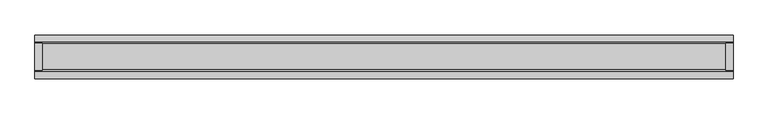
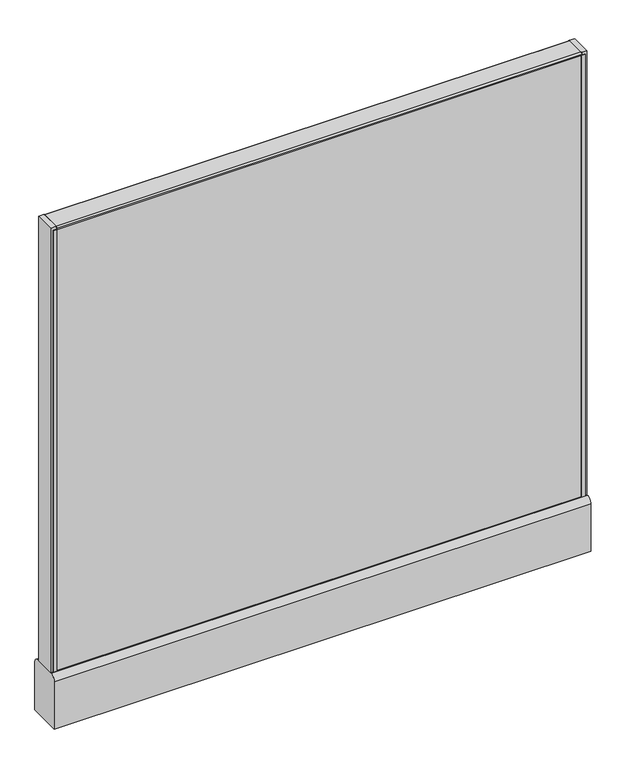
"""IFC4 building model written with IfcOpenShell, lengths in millimetres: furniture geometry."""

from ifc_helpers import new_model, si_unit, point, frame, frame_2d, origin, place, context, project, spatial, polyline, circle_curve, trimmed, segment, composite_curve, outline, extrude, source, transform, mapped, element, save
from ifc_brep_helpers import plane_surface, cylinder_surface, advanced_brep


def furniture_4f6b2c6c(model_context):
    return source(origin(), model_context, "Body", "SolidModel", [
        advanced_brep(
        [(552.45, 0.0, 0.0), (577.85, 0.0, 0.0), (565.15, 0.0, 0.0), (552.45, 0.0, 4.7625), (577.85, 0.0, 4.7625), (558.8, 0.0, 4.7625), (571.5, 0.0, 4.7625), (558.8, 0.0, 111.125), (571.5, 0.0, 111.125), (565.15, 0.0, 111.125)],
        [
            (0, 1, circle_curve(frame((565.15, 0.0, 0.0), z_axis=(0.0, 0.0, -1.0), x_axis=(1.0, 0.0, 0.0)), 12.7)),
            (1, 2),
            (2, 0),
            (1, 0, circle_curve(frame((565.15, 0.0, 0.0), z_axis=(0.0, 0.0, -1.0), x_axis=(1.0, 0.0, 0.0)), 12.7)),
            (3, 4, circle_curve(frame((565.15, 0.0, 4.7625), z_axis=(0.0, 0.0, -1.0), x_axis=(1.0, 0.0, 0.0)), 12.7)),
            (4, 1),
            (0, 3),
            (4, 3, circle_curve(frame((565.15, 0.0, 4.7625), z_axis=(0.0, 0.0, -1.0), x_axis=(1.0, 0.0, 0.0)), 12.7)),
            (5, 6, circle_curve(frame((565.15, 0.0, 4.7625), z_axis=(0.0, 0.0, -1.0), x_axis=(1.0, 0.0, 0.0)), 6.35)),
            (6, 4),
            (3, 5),
            (6, 5, circle_curve(frame((565.15, 0.0, 4.7625), z_axis=(0.0, 0.0, -1.0), x_axis=(1.0, 0.0, 0.0)), 6.35)),
            (7, 8, circle_curve(frame((565.15, 0.0, 111.125), z_axis=(0.0, 0.0, -1.0), x_axis=(1.0, 0.0, 0.0)), 6.35)),
            (8, 6),
            (5, 7),
            (8, 7, circle_curve(frame((565.15, 0.0, 111.125), z_axis=(0.0, 0.0, -1.0), x_axis=(1.0, 0.0, 0.0)), 6.35)),
            (9, 8),
            (7, 9),
        ],
        [
            plane_surface(frame((565.15, 0.0, 0.0), z_axis=(0.0, 0.0, -1.0), x_axis=(1.0, 0.0, 0.0))),
            cylinder_surface(frame((565.15, 0.0, 114.882153), z_axis=(0.0, 0.0, 1.0), x_axis=(1.0, 0.0, 0.0)), 12.7),
            plane_surface(frame((565.15, 0.0, 4.7625), z_axis=(0.0, 0.0, 1.0), x_axis=(1.0, 0.0, 0.0))),
            cylinder_surface(frame((565.15, 0.0, 114.882153), z_axis=(0.0, 0.0, 1.0), x_axis=(1.0, 0.0, 0.0)), 6.35),
            plane_surface(frame((565.15, 0.0, 111.125), z_axis=(0.0, 0.0, 1.0), x_axis=(1.0, 0.0, 0.0))),
        ],
        [
            (0, [[1, 2, 3]]),
            (0, [[4, -3, -2]]),
            (1, [[5, 6, -1, 7]]),
            (1, [[8, -7, -4, -6]]),
            (2, [[9, 10, -5, 11]]),
            (2, [[12, -11, -8, -10]]),
            (3, [[13, 14, -9, 15]]),
            (3, [[16, -15, -12, -14]]),
            (4, [[17, -13, 18]]),
            (4, [[-18, -16, -17]]),
        ],
    ),
        advanced_brep(
        [(-577.85, 0.0, 4.7625), (-552.45, 0.0, 4.7625), (-552.45, 0.0, 0.0), (-577.85, 0.0, 0.0), (-571.5, 0.0, 4.7625), (-558.8, 0.0, 4.7625), (-571.5, 0.0, 111.125), (-558.8, 0.0, 111.125), (-565.15, 0.0, 111.125), (-565.15, 0.0, 0.0)],
        [
            (0, 1, circle_curve(frame((-565.15, 0.0, 4.7625), z_axis=(0.0, 0.0, -1.0), x_axis=(1.0, 0.0, 0.0)), 12.7)),
            (1, 2),
            (2, 3, circle_curve(frame((-565.15, 0.0, 0.0), z_axis=(0.0, 0.0, 1.0), x_axis=(1.0, 0.0, 0.0)), 12.7)),
            (3, 0),
            (1, 0, circle_curve(frame((-565.15, 0.0, 4.7625), z_axis=(0.0, 0.0, -1.0), x_axis=(1.0, 0.0, 0.0)), 12.7)),
            (3, 2, circle_curve(frame((-565.15, 0.0, 0.0), z_axis=(0.0, 0.0, 1.0), x_axis=(1.0, 0.0, 0.0)), 12.7)),
            (4, 5, circle_curve(frame((-565.15, 0.0, 4.7625), z_axis=(0.0, 0.0, -1.0), x_axis=(1.0, 0.0, 0.0)), 6.35)),
            (5, 1),
            (0, 4),
            (5, 4, circle_curve(frame((-565.15, 0.0, 4.7625), z_axis=(0.0, 0.0, -1.0), x_axis=(1.0, 0.0, 0.0)), 6.35)),
            (6, 7, circle_curve(frame((-565.15, 0.0, 111.125), z_axis=(0.0, 0.0, -1.0), x_axis=(1.0, 0.0, 0.0)), 6.35)),
            (7, 5),
            (4, 6),
            (7, 6, circle_curve(frame((-565.15, 0.0, 111.125), z_axis=(0.0, 0.0, -1.0), x_axis=(1.0, 0.0, 0.0)), 6.35)),
            (8, 7),
            (6, 8),
            (2, 9),
            (9, 3),
        ],
        [
            cylinder_surface(frame((-565.15, 0.0, 123.825), z_axis=(0.0, 0.0, 1.0), x_axis=(1.0, 0.0, 0.0)), 12.7),
            plane_surface(frame((-565.15, 0.0, 4.7625), z_axis=(0.0, 0.0, 1.0), x_axis=(1.0, 0.0, 0.0))),
            cylinder_surface(frame((-565.15, 0.0, 123.825), z_axis=(0.0, 0.0, 1.0), x_axis=(1.0, 0.0, 0.0)), 6.35),
            plane_surface(frame((-565.15, 0.0, 111.125), z_axis=(0.0, 0.0, 1.0), x_axis=(1.0, 0.0, 0.0))),
            plane_surface(frame((-565.15, 0.0, 0.0), z_axis=(0.0, 0.0, -1.0), x_axis=(1.0, 0.0, 0.0))),
        ],
        [
            (0, [[1, 2, 3, 4]]),
            (0, [[5, -4, 6, -2]]),
            (1, [[7, 8, -1, 9]]),
            (1, [[10, -9, -5, -8]]),
            (2, [[11, 12, -7, 13]]),
            (2, [[14, -13, -10, -12]]),
            (3, [[15, -11, 16]]),
            (3, [[-16, -14, -15]]),
            (4, [[-3, 17, 18]]),
            (4, [[-6, -18, -17]]),
        ],
    ),
        extrude(outline(polyline([(-609.6, 23.8125), (-596.9, 23.8125), (-596.9, -23.8125), (-609.6, -23.8125), (-609.6, 23.8125)])), frame((0.0, 0.0, 136.525), z_axis=(0.0, 0.0, 1.0), x_axis=(1.0, 0.0, 0.0)), (0.0, 0.0, 1.0), 1066.8),
        extrude(outline(polyline([(596.9, -23.8125), (596.9, 23.8125), (609.6, 23.8125), (609.6, -23.8125), (596.9, -23.8125)])), frame((0.0, 0.0, 136.525), z_axis=(0.0, 0.0, 1.0), x_axis=(1.0, 0.0, 0.0)), (0.0, 0.0, 1.0), 1066.8),
        extrude(outline(polyline([(-596.9, 25.4), (-596.9, 23.8125), (-604.8375, 23.8125), (-604.8375, 25.4), (-596.9, 25.4)])), frame((0.0, 0.0, 136.525), z_axis=(0.0, 0.0, 1.0), x_axis=(1.0, 0.0, 0.0)), (0.0, 0.0, 1.0), 1060.45),
        extrude(outline(polyline([(-596.9, -25.4), (-604.8375, -25.4), (-604.8375, -23.8125), (-596.9, -23.8125), (-596.9, -25.4)])), frame((0.0, 0.0, 136.525), z_axis=(0.0, 0.0, 1.0), x_axis=(1.0, 0.0, 0.0)), (0.0, 0.0, 1.0), 1060.45),
        extrude(outline(polyline([(604.8375, 23.8125), (596.9, 23.8125), (596.9, 25.4), (604.8375, 25.4), (604.8375, 23.8125)])), frame((0.0, 0.0, 136.525), z_axis=(0.0, 0.0, 1.0), x_axis=(1.0, 0.0, 0.0)), (0.0, 0.0, 1.0), 1060.45),
        extrude(outline(polyline([(596.9, -25.4), (596.9, -23.8125), (604.8375, -23.8125), (604.8375, -25.4), (596.9, -25.4)])), frame((0.0, 0.0, 136.525), z_axis=(0.0, 0.0, 1.0), x_axis=(1.0, 0.0, 0.0)), (0.0, 0.0, 1.0), 1060.45),
        extrude(outline(composite_curve([segment(trimmed(circle_curve(frame_2d((22.225, 1200.15)), 3.175), [point((22.225, 1203.325))], [point((25.4, 1200.15))], False, "CARTESIAN"), True, "CONTINUOUS"), segment(polyline([(25.4, 1200.15), (25.4, 1196.975), (-25.4, 1196.975), (-25.4, 1200.15)]), True, "CONTINUOUS"), segment(trimmed(circle_curve(frame_2d((-22.225, 1200.15)), 3.175), [point((-25.4, 1200.15))], [point((-22.225, 1203.325))], False, "CARTESIAN"), True, "CONTINUOUS"), segment(polyline([(-22.225, 1203.325), (22.225, 1203.325)]), True, "CONTINUOUS")], self_intersect=False)), frame((-596.9, 0.0, 0.0), z_axis=(1.0, 0.0, 0.0), x_axis=(0.0, 1.0, 0.0)), (0.0, 0.0, 1.0), 1193.8),
        extrude(outline(composite_curve([segment(trimmed(circle_curve(frame_2d((25.4, 123.825)), 12.7), [point((25.4, 136.525))], [point((38.1, 123.825))], False, "CARTESIAN"), True, "CONTINUOUS"), segment(polyline([(38.1, 123.825), (38.1, 9.525), (-38.1, 9.525), (-38.1, 123.825)]), True, "CONTINUOUS"), segment(trimmed(circle_curve(frame_2d((-25.4, 123.825)), 12.7), [point((-38.1, 123.825))], [point((-25.4, 136.525))], False, "CARTESIAN"), True, "CONTINUOUS"), segment(polyline([(-25.4, 136.525), (25.4, 136.525)]), True, "CONTINUOUS")], self_intersect=False)), frame((-609.6, 0.0, 0.0), z_axis=(1.0, 0.0, 0.0), x_axis=(0.0, 1.0, 0.0)), (0.0, 0.0, 1.0), 1219.2),
        extrude(outline(polyline([(596.9, 23.8125), (596.9, -23.8125), (-596.9, -23.8125), (-596.9, 23.8125), (596.9, 23.8125)])), frame((0.0, 0.0, 136.525), z_axis=(0.0, 0.0, 1.0), x_axis=(1.0, 0.0, 0.0)), (0.0, 0.0, 1.0), 1060.45),
    ])


if __name__ == "__main__":
    model = new_model("IFC4")
    model_context = context("Model", 3, world=origin())
    ifc_project = project(units=[si_unit("LENGTHUNIT", "METRE", prefix="MILLI")], contexts=[model_context])
    site = spatial("IfcSite", under=ifc_project)
    building = spatial("IfcBuilding", under=site)
    placement = place(None, origin())
    furniture_shape = furniture_4f6b2c6c(model_context)
    element("IfcFurniture", 1, ObjectType="HermanMiller_ActionOffice_A1110_Hard-SurfacedPanelStandardBase : 47\"H x 48\"W-N", at=placement, inside=building, context=model_context, shape_type="MappedRepresentation", body=[
        mapped(furniture_shape, transform((0.0, 0.0, 0.0), x_axis=(1.0, 0.0, 0.0), y_axis=(0.0, 1.0, 0.0), z_axis=(0.0, 0.0, 1.0))),
    ])
    save(model, "model.ifc")
